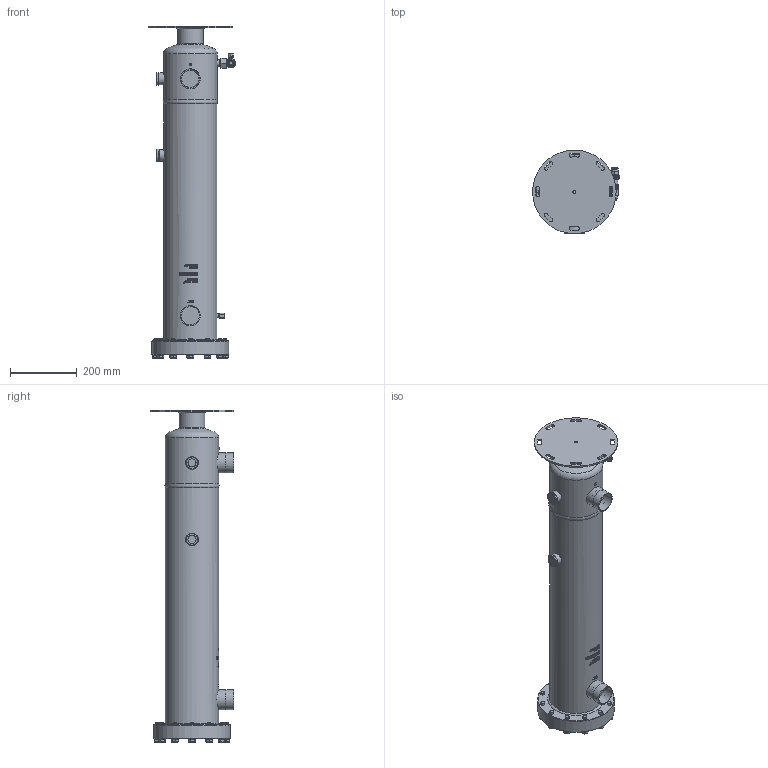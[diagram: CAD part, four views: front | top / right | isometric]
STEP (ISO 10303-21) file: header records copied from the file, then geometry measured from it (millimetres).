
FILE_DESCRIPTION(/* description */ (''),/* implementation_level */ '2;1');
FILE_NAME(/* name */ 'P:\OSR\BOS2-R-54F\BOS2-R-54F.stp',/* time_stamp */ '2019-08-21T10:00:09+02:00',/* author */ ('neufeld'),/* organization */ (''),/* preprocessor_version */ 'ST-DEVELOPER v17',/* originating_system */ 'Autodesk Inventor 2019',/* authorisation */ '');
FILE_SCHEMA (('AUTOMOTIVE_DESIGN { 1 0 10303 214 3 1 1 }'));
Products named in the file (3): BOS2-R-54F_AG-Kunde; BOS2-R-54F; RAV-1"-10-CD
Assembly tree (2 placements, depth 2):
  BOS2-R-54F_AG-Kunde
    BOS2-R-54F
    RAV-1"-10-CD
Bounding box: 259.8 x 250 x 993.73 mm (x, y, z)
Volume: 19948961.7 mm3; surface area: 720609.7 mm2
Topology: 2 solids, 6 shells, 2093 faces, 5658 edges, 3757 vertices
Faces by surface type: plane 1020, bspline 526, cylinder 375, cone 161, torus 10, sphere 1
Full cylindrical faces by diameter (mm): 4 x1, 6.5 x1, 8.376 x1, 8.9 x1, 9 x1, 9.4 x1, 10.1 x1, 10.2 x1, 10.72 x1, 11 x1, 12 x25, 13 x1, 13.3 x1, 13.5 x1, 14 x1, 14.2 x1, 15.75 x1, 15.87 x1, 16.63 x12, 16.7 x1, 16.8 x1, 17.3 x1, 18 x1, 18.3 x1, 19 x1, 19.05 x1, 19.9 x1, 20 x3, 22.5 x2, 23 x1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
Entity records: 83289 total; most frequent: CARTESIAN_POINT 32262, ORIENTED_EDGE 11344, DIRECTION 9306, EDGE_CURVE 5672, VERTEX_POINT 3757, AXIS2_PLACEMENT_3D 3405, LINE 2496, VECTOR 2496
